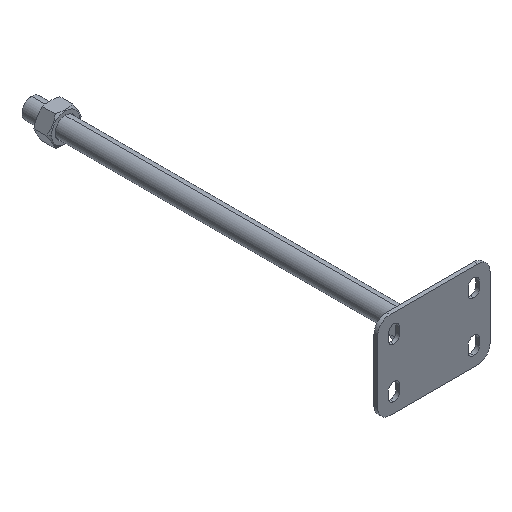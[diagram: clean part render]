
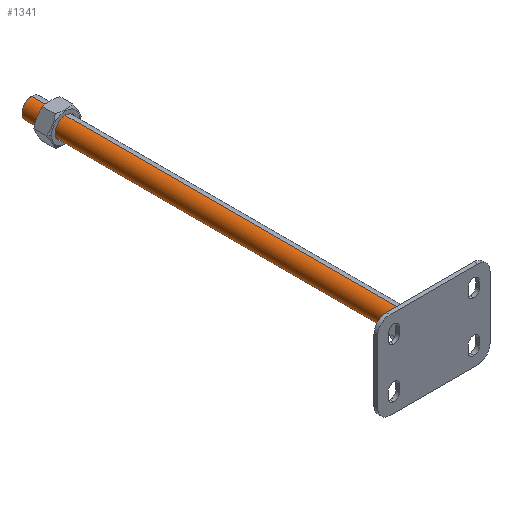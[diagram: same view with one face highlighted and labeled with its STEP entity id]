
A CAD part, isometric view. The second image highlights one B-rep face of the part: STEP entity #1341.
In plain terms, the highlighted cylindrical face has radius 8 mm (diameter 16 mm), a partial arc.
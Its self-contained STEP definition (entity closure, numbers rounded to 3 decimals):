
#683 = LINE ( 'NONE', #1729, #4051 ) ;
#759 = DIRECTION ( 'NONE',  ( 0., 0., -1. ) ) ;
#1100 = CARTESIAN_POINT ( 'NONE',  ( 0., 8., -8. ) ) ;
#1308 = DIRECTION ( 'NONE',  ( 0., -1., 0. ) ) ;
#1341 = ADVANCED_FACE ( 'NONE', ( #2631 ), #2661, .T. ) ;
#1539 = LINE ( 'NONE', #1100, #2335 ) ;
#1577 = EDGE_CURVE ( 'NONE', #5352, #3478, #1539, .T. ) ;
#1660 = DIRECTION ( 'NONE',  ( 0., 1., 0. ) ) ;
#1692 = DIRECTION ( 'NONE',  ( 0., 0., 1. ) ) ;
#1729 = CARTESIAN_POINT ( 'NONE',  ( 0., 8., 8. ) ) ;
#1782 = ORIENTED_EDGE ( 'NONE', *, *, #3592, .F. ) ;
#1949 = VERTEX_POINT ( 'NONE', #4514 ) ;
#2054 = AXIS2_PLACEMENT_3D ( 'NONE', #5992, #3090, #3521 ) ;
#2183 = CARTESIAN_POINT ( 'NONE',  ( 0., 10., 0. ) ) ;
#2335 = VECTOR ( 'NONE', #2948, 1000. ) ;
#2474 = AXIS2_PLACEMENT_3D ( 'NONE', #2183, #1660, #1692 ) ;
#2631 = FACE_OUTER_BOUND ( 'NONE', #6089, .T. ) ;
#2661 = CYLINDRICAL_SURFACE ( 'NONE', #2054, 8. ) ;
#2778 = EDGE_CURVE ( 'NONE', #5025, #5352, #3353, .T. ) ;
#2948 = DIRECTION ( 'NONE',  ( 0., -1., 0. ) ) ;
#3042 = DIRECTION ( 'NONE',  ( 0., -1., 0. ) ) ;
#3090 = DIRECTION ( 'NONE',  ( 0., -1., 0. ) ) ;
#3301 = EDGE_CURVE ( 'NONE', #3478, #1949, #5123, .T. ) ;
#3353 = CIRCLE ( 'NONE', #3454, 8. ) ;
#3454 = AXIS2_PLACEMENT_3D ( 'NONE', #5526, #1308, #759 ) ;
#3478 = VERTEX_POINT ( 'NONE', #4584 ) ;
#3521 = DIRECTION ( 'NONE',  ( 0., 0., -1. ) ) ;
#3592 = EDGE_CURVE ( 'NONE', #5025, #1949, #683, .T. ) ;
#3756 = ORIENTED_EDGE ( 'NONE', *, *, #2778, .T. ) ;
#4025 = ORIENTED_EDGE ( 'NONE', *, *, #3301, .T. ) ;
#4051 = VECTOR ( 'NONE', #3042, 1000. ) ;
#4410 = ORIENTED_EDGE ( 'NONE', *, *, #1577, .T. ) ;
#4514 = CARTESIAN_POINT ( 'NONE',  ( 0., 10., 8. ) ) ;
#4584 = CARTESIAN_POINT ( 'NONE',  ( 0., 10., -8. ) ) ;
#5025 = VERTEX_POINT ( 'NONE', #6001 ) ;
#5123 = CIRCLE ( 'NONE', #2474, 8. ) ;
#5352 = VERTEX_POINT ( 'NONE', #5620 ) ;
#5526 = CARTESIAN_POINT ( 'NONE',  ( 0., 309., 0. ) ) ;
#5620 = CARTESIAN_POINT ( 'NONE',  ( 0., 309., -8. ) ) ;
#5992 = CARTESIAN_POINT ( 'NONE',  ( 0., 8., 0. ) ) ;
#6001 = CARTESIAN_POINT ( 'NONE',  ( 0., 309., 8. ) ) ;
#6089 = EDGE_LOOP ( 'NONE', ( #1782, #3756, #4410, #4025 ) ) ;
